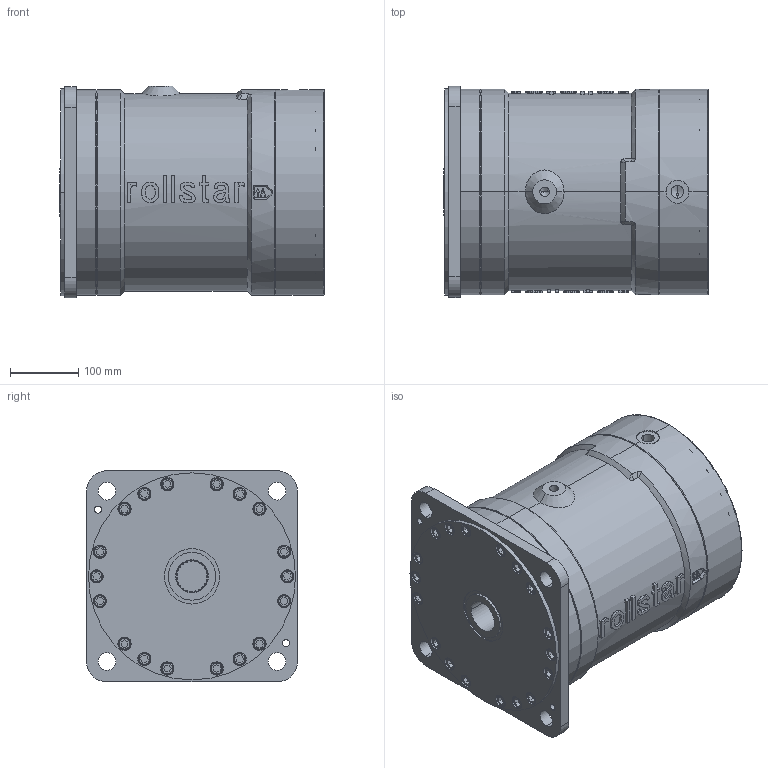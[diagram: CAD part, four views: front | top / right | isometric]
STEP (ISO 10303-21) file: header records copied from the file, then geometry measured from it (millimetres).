
FILE_DESCRIPTION(('Creo Elements/Direct Modeling STEP Export'),'2;1');
FILE_NAME('AM350_500 axial.stp','2017-07-10T15:04:00',(''),(''),'PTC Creo Elements/Direct Modeling STEP processor for AP214 (Solid Model)','PTC Creo Elements/Direct Modeling 19.0C 15-Aug-2015 (C) Parametric Technology GmbH','');
FILE_SCHEMA(('AUTOMOTIVE_DESIGN { 1 0 10303 214 1 1 1 1 }'));
Products named in the file (2): AM350_500
Assembly tree (1 placements, depth 2):
  AM350_500
    AM350_500
Bounding box: 388 x 310 x 311 mm (x, y, z)
Volume: 26606363.7 mm3; surface area: 690075 mm2
Topology: 1 solids, 1 shells, 1435 faces, 3770 edges, 2457 vertices
Faces by surface type: plane 907, cylinder 344, cone 128, extrusion 46, torus 6, bspline 4
Entity records: 54150 total; most frequent: CARTESIAN_POINT 14171, ORIENTED_EDGE 7468, DIRECTION 6698, EDGE_CURVE 3734, VERTEX_POINT 2457, VECTOR 2404, LINE 2358, AXIS2_PLACEMENT_3D 2147
